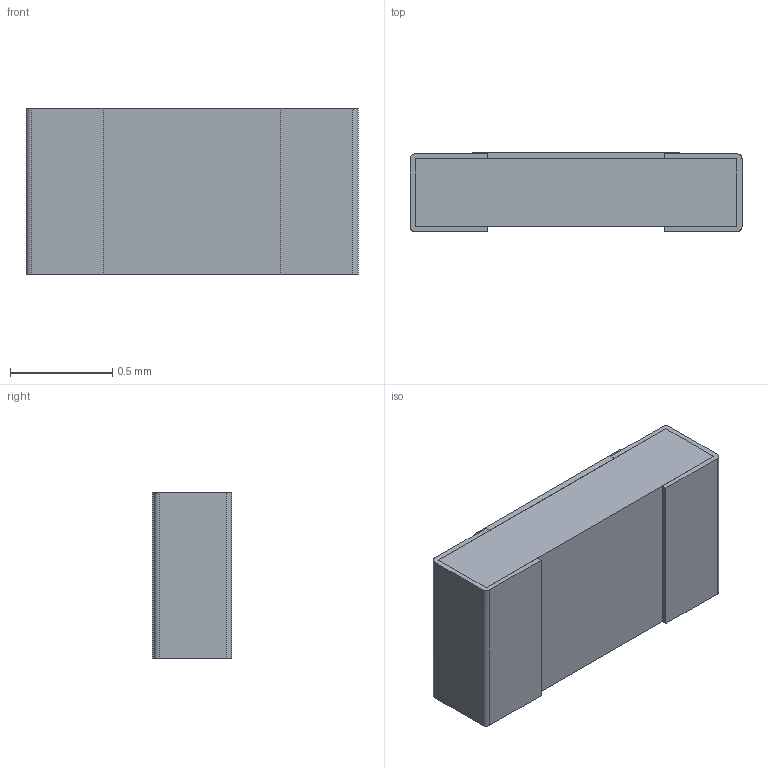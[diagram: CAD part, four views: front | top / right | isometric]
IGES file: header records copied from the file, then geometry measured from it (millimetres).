
Global section: file name: PTN0603; native system: Autodesk Inventor LT ; preprocessor: unknown; author: Neil; date: 20200108.145518; units: inch
Bounding box: 1.63 x 0.39 x 0.81 mm (x, y, z)
Volume: 0.5 mm3; surface area: 10.6 mm2
Topology: 5 solids, 5 shells, 98 faces, 264 edges, 176 vertices
Faces by surface type: bspline 98
